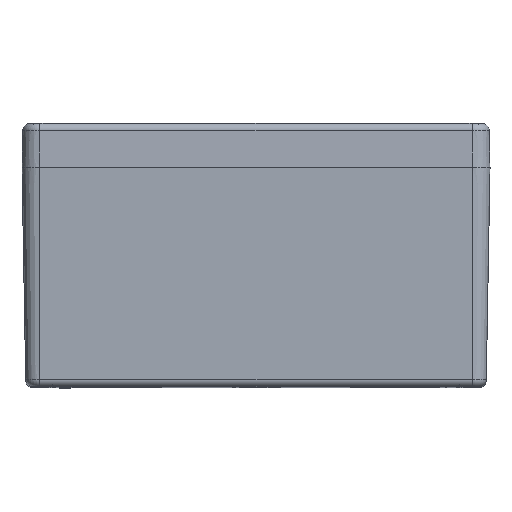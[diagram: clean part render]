
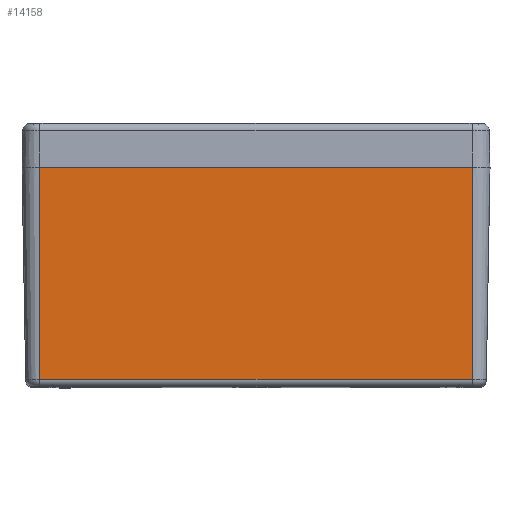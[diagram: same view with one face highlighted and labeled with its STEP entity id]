
A CAD part, top view. The second image highlights one B-rep face of the part: STEP entity #14158.
In plain terms, the highlighted planar face has unit normal (0, -0.018, 1).
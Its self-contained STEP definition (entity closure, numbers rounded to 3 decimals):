
#467 = LINE ( 'NONE', #13878, #21757 ) ;
#749 = DIRECTION ( 'NONE',  ( 0., -0.017, 1. ) ) ;
#815 = VECTOR ( 'NONE', #22219, 1000. ) ;
#1331 = CARTESIAN_POINT ( 'NONE',  ( -74., -72.544, 123.734 ) ) ;
#2008 = CARTESIAN_POINT ( 'NONE',  ( -74., 0., 125. ) ) ;
#2156 = DIRECTION ( 'NONE',  ( 0., 1., 0.017 ) ) ;
#3626 = EDGE_CURVE ( 'NONE', #17649, #7713, #467, .T. ) ;
#3741 = EDGE_CURVE ( 'NONE', #17649, #22682, #19145, .T. ) ;
#3792 = EDGE_CURVE ( 'NONE', #22682, #12930, #16550, .T. ) ;
#3927 = ORIENTED_EDGE ( 'NONE', *, *, #3741, .T. ) ;
#5038 = EDGE_CURVE ( 'NONE', #7713, #12930, #7764, .T. ) ;
#7713 = VERTEX_POINT ( 'NONE', #31210 ) ;
#7764 = LINE ( 'NONE', #2008, #815 ) ;
#12930 = VERTEX_POINT ( 'NONE', #36896 ) ;
#13878 = CARTESIAN_POINT ( 'NONE',  ( -74., 0., 125. ) ) ;
#14158 = ADVANCED_FACE ( 'NONE', ( #21337 ), #35041, .T. ) ;
#15246 = CARTESIAN_POINT ( 'NONE',  ( 74., 0., 125. ) ) ;
#15439 = CARTESIAN_POINT ( 'NONE',  ( -74., 0., 125. ) ) ;
#16323 = CARTESIAN_POINT ( 'NONE',  ( 74., -72.544, 123.734 ) ) ;
#16550 = LINE ( 'NONE', #15246, #31428 ) ;
#17503 = EDGE_LOOP ( 'NONE', ( #29053, #3927, #25809, #25357 ) ) ;
#17649 = VERTEX_POINT ( 'NONE', #1331 ) ;
#18071 = DIRECTION ( 'NONE',  ( 0., 1., 0.017 ) ) ;
#19145 = LINE ( 'NONE', #26272, #24836 ) ;
#20609 = DIRECTION ( 'NONE',  ( 1., 0., 0. ) ) ;
#21037 = DIRECTION ( 'NONE',  ( 0., -1., -0.017 ) ) ;
#21337 = FACE_OUTER_BOUND ( 'NONE', #17503, .T. ) ;
#21757 = VECTOR ( 'NONE', #2156, 1000. ) ;
#22219 = DIRECTION ( 'NONE',  ( 1., 0., 0. ) ) ;
#22312 = AXIS2_PLACEMENT_3D ( 'NONE', #15439, #749, #21037 ) ;
#22682 = VERTEX_POINT ( 'NONE', #16323 ) ;
#24836 = VECTOR ( 'NONE', #20609, 1000. ) ;
#25357 = ORIENTED_EDGE ( 'NONE', *, *, #5038, .F. ) ;
#25809 = ORIENTED_EDGE ( 'NONE', *, *, #3792, .T. ) ;
#26272 = CARTESIAN_POINT ( 'NONE',  ( 74., -72.544, 123.734 ) ) ;
#29053 = ORIENTED_EDGE ( 'NONE', *, *, #3626, .F. ) ;
#31210 = CARTESIAN_POINT ( 'NONE',  ( -74., 0., 125. ) ) ;
#31428 = VECTOR ( 'NONE', #18071, 1000. ) ;
#35041 = PLANE ( 'NONE',  #22312 ) ;
#36896 = CARTESIAN_POINT ( 'NONE',  ( 74., 0., 125. ) ) ;
